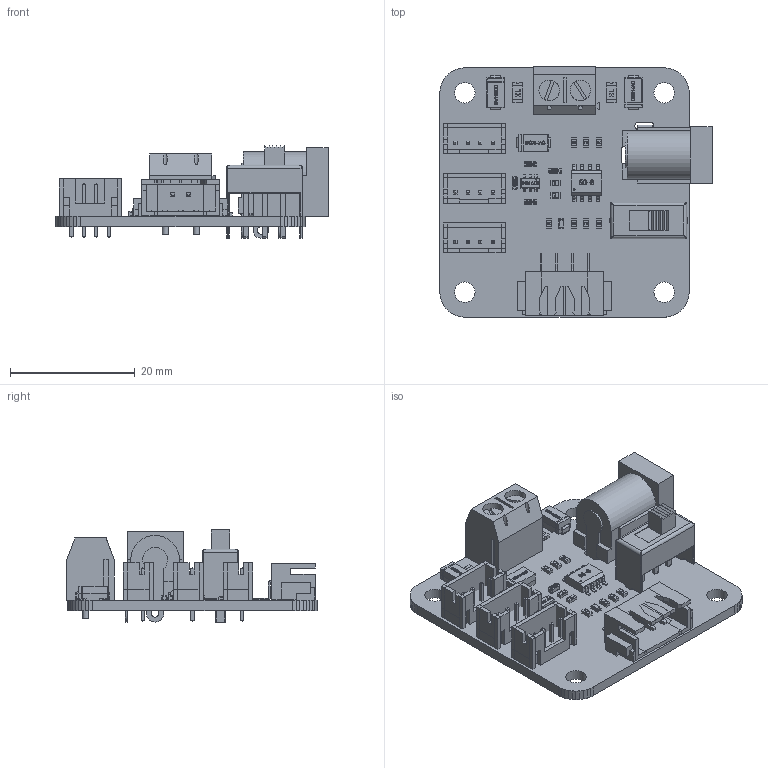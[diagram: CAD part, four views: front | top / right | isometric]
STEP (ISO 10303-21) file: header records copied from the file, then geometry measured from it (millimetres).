
FILE_DESCRIPTION(('Open CASCADE Model'),'2;1');
FILE_NAME('Open CASCADE Shape Model','2024-10-16T13:50:39',('Author'),( 'Open CASCADE'),'Open CASCADE STEP processor 6.5','Open CASCADE 6.5' ,'Unknown');
FILE_SCHEMA(('AUTOMOTIVE_DESIGN { 1 0 10303 214 1 1 1 1 }'));
Length unit declared in the file: millimetre
Products named in the file (51): PCB; Board; R1; 0603_R; U2; SO-8; U1; User_Library-SOT-23-6-3; C2; User_Library-0603(1608M)_Cap; C1; D1; LED0603(R); D2; User_Library-DO-214AC(SMA); R2; R3; D3; D4; R4; R5; R6; R7; R8; J1; User_Library-DC-10A; P1; 窒璃1; \X2\96F64EF6\X0\2; \X2\96F64EF6\X0\4; \X2\96F64EF6\X0\6; \X2\96F64EF6\X0\8; \X2\96F64EF6\X0\10; \X2\96F64EF6\X0\12; \X2\96F64EF6\X0\14; \X2\96F64EF6\X0\16; \X2\96F64EF6\X0\18; P2; P3; S1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
Assembly tree (66 placements, depth 4):
  PCB
    Board
    R1
      0603_R
    U2
      SO-8
    U1
      User_Library-SOT-23-6-3
    C2
      User_Library-0603(1608M)_Cap
    C1
      User_Library-0603(1608M)_Cap
    D1
      LED0603(R)
    D2
      User_Library-DO-214AC(SMA)
    R2
      0603_R
    R3
      0603_R
    D3
      User_Library-DO-214AC(SMA)
    D4
      User_Library-DO-214AC(SMA)
    R4
      0603_R
    R5
      0603_R
    R6
      0603_R
    R7
      0603_R
    R8
      0603_R
    J1
      User_Library-DC-10A
    P1
      窒璃1
        \X2\96F64EF6\X0\2
        \X2\96F64EF6\X0\4
        \X2\96F64EF6\X0\6
        \X2\96F64EF6\X0\8
        \X2\96F64EF6\X0\10
        \X2\96F64EF6\X0\12
        \X2\96F64EF6\X0\14
        \X2\96F64EF6\X0\16
        \X2\96F64EF6\X0\18
    P2
      窒璃1
        \X2\96F64EF6\X0\2
        \X2\96F64EF6\X0\4
        \X2\96F64EF6\X0\6
        \X2\96F64EF6\X0\8
        \X2\96F64EF6\X0\10
        \X2\96F64EF6\X0\12
        \X2\96F64EF6\X0\14
        \X2\96F64EF6\X0\16
        \X2\96F64EF6\X0\18
    P3
      窒璃1
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Bounding box: 43.71 x 40.18 x 14.8 mm (x, y, z)
Volume: 5430.2 mm3; surface area: 9282.8 mm2
Topology: 75 solids, 75 shells, 2708 faces, 6966 edges, 4497 vertices
Faces by surface type: plane 1823, bspline 521, cylinder 315, extrusion 45, sphere 4
Full cylindrical faces by diameter (mm): 0.65 x12, 0.7 x2, 0.8 x3, 1 x2, 1.2 x2, 3.2 x2, 3.3 x6
Entity records: 121815 total; most frequent: CARTESIAN_POINT 39542, DIRECTION 11996, VECTOR 8352, LINE 8347, ORIENTED_EDGE 7786, PCURVE 7786, DEFINITIONAL_REPRESENTATION 7786, EDGE_CURVE 3893
